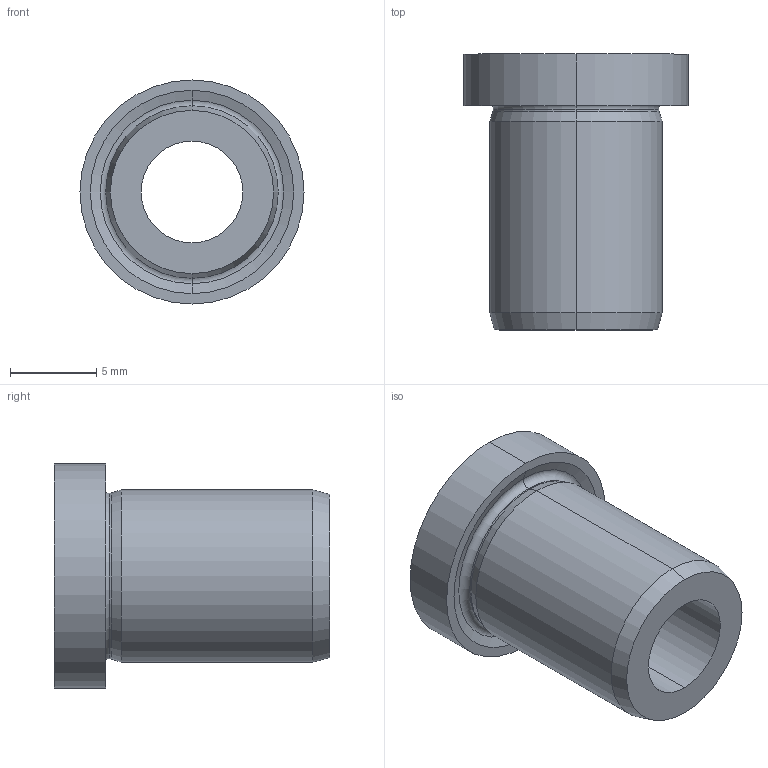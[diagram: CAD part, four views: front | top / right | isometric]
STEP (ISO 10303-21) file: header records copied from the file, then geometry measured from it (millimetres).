
FILE_DESCRIPTION (( 'STEP AP214' ), '1' );
FILE_NAME ('172-B5,9-16-A.step', '2024-10-17T05:14:58', ( '' ), ( '' ), 'SwSTEP 2.0', 'SolidWorks 2022', '' );
FILE_SCHEMA (( 'AUTOMOTIVE_DESIGN' ));
Length unit declared in the file: millimetre
Products named in the file (1): 172-B5,9-16-A
Bounding box: 13 x 16 x 13 mm (x, y, z)
Volume: 969.7 mm3; surface area: 1036.3 mm2
Topology: 1 solids, 1 shells, 21 faces, 42 edges, 24 vertices
Faces by surface type: torus 6, cone 6, cylinder 6, plane 3
Entity records: 632 total; most frequent: DIRECTION 116, CARTESIAN_POINT 88, ORIENTED_EDGE 84, AXIS2_PLACEMENT_3D 52, EDGE_CURVE 42, CIRCLE 30, EDGE_LOOP 24, VERTEX_POINT 24
